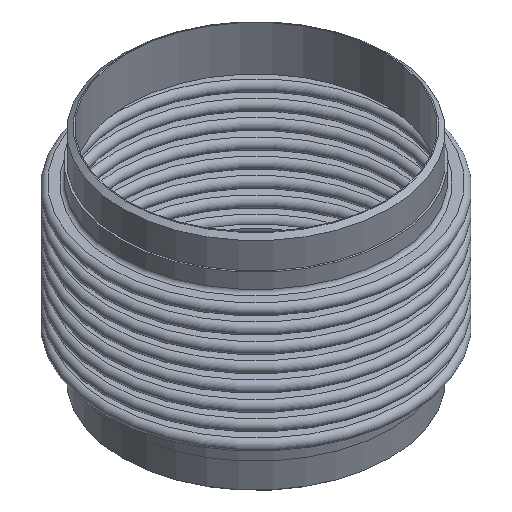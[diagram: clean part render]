
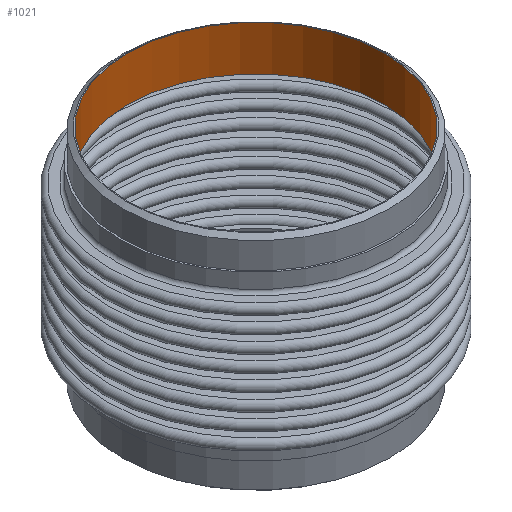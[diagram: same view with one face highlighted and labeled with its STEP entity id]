
A CAD part, isometric view. The second image highlights one B-rep face of the part: STEP entity #1021.
In plain terms, the highlighted cylindrical face has radius 219.075 mm (diameter 438.15 mm), a full revolution.
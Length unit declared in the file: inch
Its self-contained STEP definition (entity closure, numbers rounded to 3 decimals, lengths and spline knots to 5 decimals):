
#37=LINE('',#1974,#44);
#44=VECTOR('',#1677,8.625);
#50=CYLINDRICAL_SURFACE('',#1267,8.625);
#212=FACE_OUTER_BOUND('',#332,.T.);
#332=EDGE_LOOP('',(#896,#897,#898,#899));
#449=CIRCLE('',#1266,8.625);
#450=CIRCLE('',#1268,8.625);
#531=VERTEX_POINT('',#1969);
#532=VERTEX_POINT('',#1972);
#653=EDGE_CURVE('',#531,#531,#449,.T.);
#654=EDGE_CURVE('',#532,#532,#450,.T.);
#655=EDGE_CURVE('',#532,#531,#37,.T.);
#896=ORIENTED_EDGE('',*,*,#654,.F.);
#897=ORIENTED_EDGE('',*,*,#655,.T.);
#898=ORIENTED_EDGE('',*,*,#653,.F.);
#899=ORIENTED_EDGE('',*,*,#655,.F.);
#1021=ADVANCED_FACE('',(#212),#50,.F.);
#1266=AXIS2_PLACEMENT_3D('',#1970,#1671,#1672);
#1267=AXIS2_PLACEMENT_3D('',#1971,#1673,#1674);
#1268=AXIS2_PLACEMENT_3D('',#1973,#1675,#1676);
#1671=DIRECTION('center_axis',(0.,0.,-1.));
#1672=DIRECTION('ref_axis',(-1.,0.,0.));
#1673=DIRECTION('center_axis',(0.,0.,1.));
#1674=DIRECTION('ref_axis',(-1.,0.,0.));
#1675=DIRECTION('center_axis',(0.,0.,1.));
#1676=DIRECTION('ref_axis',(-1.,0.,0.));
#1677=DIRECTION('',(0.,0.,1.));
#1969=CARTESIAN_POINT('',(8.625,0.,1.5));
#1970=CARTESIAN_POINT('Origin',(0.,0.,1.5));
#1971=CARTESIAN_POINT('Origin',(0.,0.,0.));
#1972=CARTESIAN_POINT('',(8.625,0.,-1.5));
#1973=CARTESIAN_POINT('Origin',(0.,0.,-1.5));
#1974=CARTESIAN_POINT('',(8.625,0.,0.));
